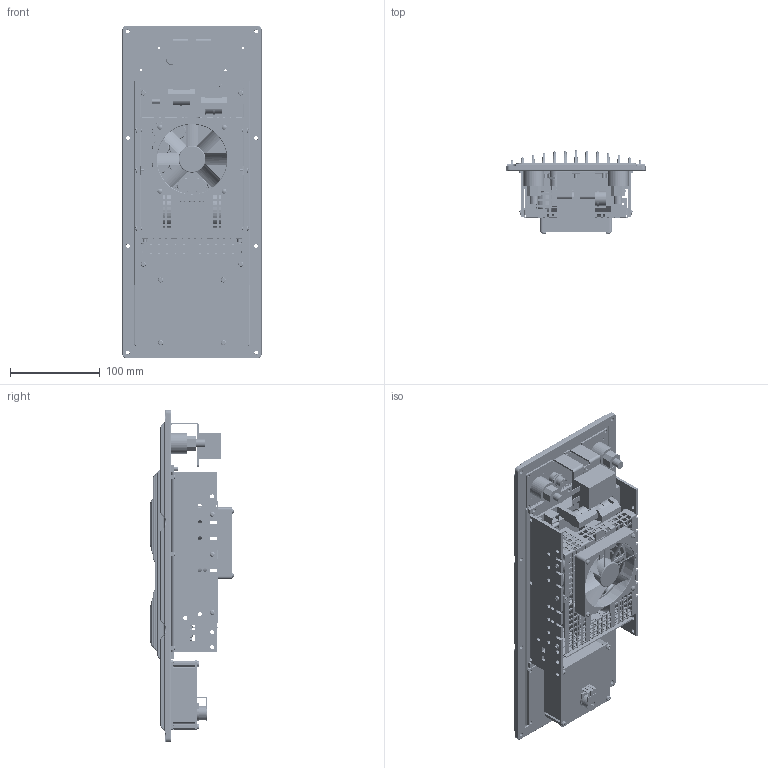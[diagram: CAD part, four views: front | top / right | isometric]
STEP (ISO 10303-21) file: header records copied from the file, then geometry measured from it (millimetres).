
FILE_DESCRIPTION((''),'2;1');
FILE_NAME('POWERSOFT_DM1000_IS_MECH3D_ASM','2012-07-08T',('carlo'),(''),'PRO/ENGINEER BY PARAMETRIC TECHNOLOGY CORPORATION, 2010480','PRO/ENGINEER BY PARAMETRIC TECHNOLOGY CORPORATION, 2010480','');
FILE_SCHEMA(('CONFIG_CONTROL_DESIGN'));
Products named in the file (30): POWERSOFT_DM1000_IS_MECH3D_SKEL; FILTRO; ME000397; CONNETTORE_NEUTRIK; CABIATENSIONE; ME000472_REV01; PIASTRINO_CONNETTORI; VI000051; SO-M3-4; ME000156-394; ME000156-310_ASM; SIMM_SOCKET; SM000544-422; SM000544-282_ASM; FH-M4-8; SO-M3-8; ME000313-366; ME000313-296_ASM; ASSEM1_ASM; ROSETTA_3_2X6_UNI6592-A2; VITE_M3X6_UNI7687; CONTROL_VER01_REV00-280; FAN; VITE_ISO7049-ST2_9X18_5-F-Z_Q; POWERSOFT_DM1000_MECH3D_ASM; MW_5110_SM624; COLONNINA24_6; COLONNINA_7_5; VITE_M3X6_UNI7688-A2; POWERSOFT_DM1000_IS_MECH3D_ASM
Assembly tree (68 placements, depth 5):
  POWERSOFT_DM1000_IS_MECH3D_ASM
    POWERSOFT_DM1000_IS_MECH3D_SKEL
    FILTRO
    ME000397
    CONNETTORE_NEUTRIK  x2
    CABIATENSIONE
    ME000472_REV01
    PIASTRINO_CONNETTORI
    POWERSOFT_DM1000_MECH3D_ASM
      ASSEM1_ASM
        VI000051  x6
        ME000156-310_ASM
          SO-M3-4  x2
          ME000156-394
        SM000544-282_ASM
          SIMM_SOCKET  x2
          SM000544-422
        ME000313-296_ASM
          FH-M4-8
          SO-M3-8  x8
          ME000313-366
      ROSETTA_3_2X6_UNI6592-A2  x4
      VITE_M3X6_UNI7687  x4
      CONTROL_VER01_REV00-280
      FAN
      VITE_ISO7049-ST2_9X18_5-F-Z_Q  x4
    MW_5110_SM624
    COLONNINA24_6  x4
    VITE_M3X6_UNI7687  x4
    COLONNINA_7_5  x2
    VITE_M3X6_UNI7688-A2  x8
Bounding box: 155 x 93.04 x 370 mm (x, y, z)
Volume: 1097865.2 mm3; surface area: 514406.1 mm2
Topology: 62 solids, 62 shells, 8036 faces, 21162 edges, 13795 vertices
Faces by surface type: plane 5424, cylinder 1900, torus 270, bspline 216, cone 170, extrusion 30, sphere 26
Entity records: 199512 total; most frequent: CARTESIAN_POINT 55529, ORIENTED_EDGE 30098, DIRECTION 28870, EDGE_CURVE 15049, VECTOR 10850, LINE 10820, VERTEX_POINT 9742, AXIS2_PLACEMENT_3D 9010
